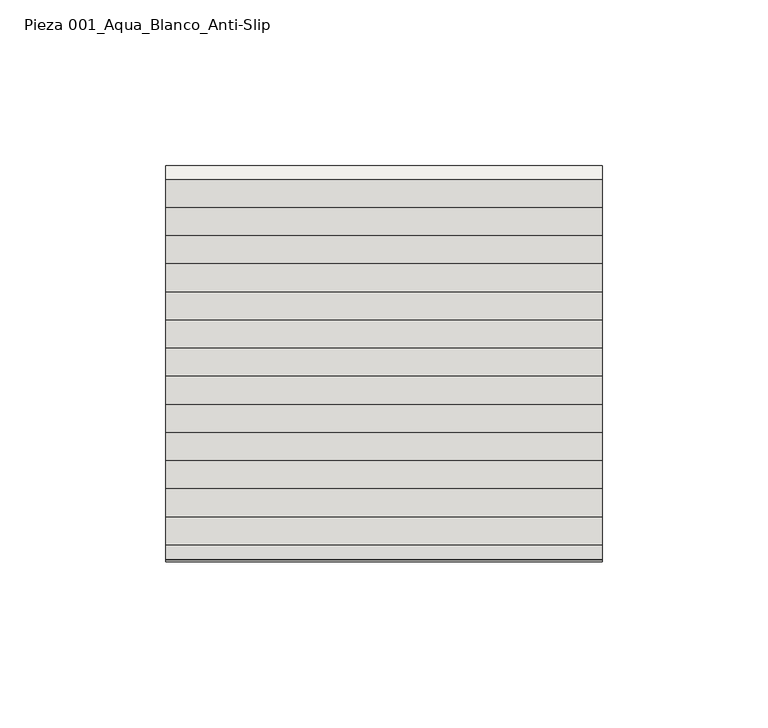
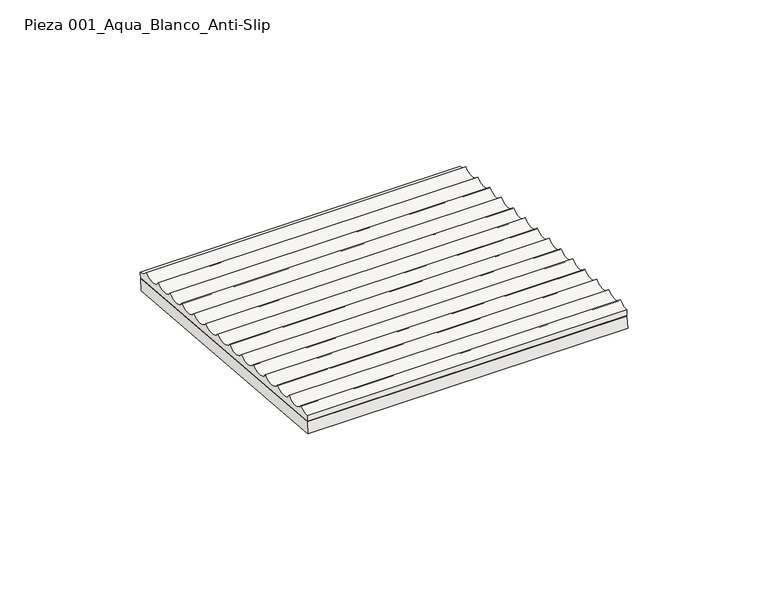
"""IFC4 building model written with IfcOpenShell, lengths in millimetres: slab geometry, ROSA GRES_001 (1 fila) : Pieza 001_Aqua_Blanco_Anti-Slip."""

import ifcopenshell
import ifcopenshell.guid

model = None  # the IFC model being written
_history = None  # IfcOwnerHistory: only IFC2X3 demands one
_inside = {}  # id of a spatial element -> (the spatial element, [elements in it])
_under = {}  # id of a project, library or spatial element -> (it, [spatial elements below it])
_declared = {}  # id of a project -> (the project, [libraries it declares])
_typed = {}  # id of a type object -> (the type object, [elements of that type])
_made_of = {}  # id of a material, layer set ... -> (it, [elements and type objects made of it])


def new_model(schema):
    """Start an empty IFC model of exactly this schema.

    Asked for "IFC4X3", IfcOpenShell would pick the latest addendum, in which some entities
    have other attributes; the version numbers below select the first issue.
    IFC2X3 requires an IfcOwnerHistory on every rooted entity: one is made here for all.
    """
    global model, _history
    if schema == "IFC4X3":
        model = ifcopenshell.file(schema_version=(4, 3, 0, 0))
    else:
        model = ifcopenshell.file(schema=schema)
    _inside.clear()
    _under.clear()
    _declared.clear()
    _typed.clear()
    _made_of.clear()
    _history = None
    if model.schema == "IFC2X3":
        org = make("IfcOrganization", Name="unknown")
        user = make(
            "IfcPersonAndOrganization",
            ThePerson=make("IfcPerson", FamilyName="unknown"),
            TheOrganization=org,
        )
        app = make(
            "IfcApplication",
            ApplicationDeveloper=org,
            Version="unknown",
            ApplicationFullName="unknown",
            ApplicationIdentifier="unknown",
        )
        _history = make(
            "IfcOwnerHistory",
            OwningUser=user,
            OwningApplication=app,
            ChangeAction="ADDED",
            CreationDate=0,
        )
    return model


def make(cls, **values):
    """One entity of the class cls with the attributes given. An attribute that is None is left unset."""
    return model.create_entity(
        cls, **{name: value for name, value in values.items() if value is not None}
    )


def rooted(cls, **values):
    """An entity with a GlobalId (a new one), such as an element, a storey or a relation."""
    return make(cls, GlobalId=ifcopenshell.guid.new(), OwnerHistory=_history, **values)


def si_unit(unit_type, name, prefix=None):
    """IfcSIUnit, for example si_unit("LENGTHUNIT", "METRE", prefix="MILLI")."""
    return make("IfcSIUnit", UnitType=unit_type, Prefix=prefix, Name=name)


def assignment(units):
    """IfcUnitAssignment: the units of a project."""
    return None if units is None else make("IfcUnitAssignment", Units=units)


def point(xyz):
    """IfcCartesianPoint."""
    return None if xyz is None else make("IfcCartesianPoint", Coordinates=xyz)


def direction(xyz):
    """IfcDirection."""
    return None if xyz is None else make("IfcDirection", DirectionRatios=xyz)


def frame(location, z_axis=None, x_axis=None):
    """IfcAxis2Placement3D, a coordinate frame: its origin and axes. An axis left out is left unset."""
    return make(
        "IfcAxis2Placement3D",
        Location=point(location),
        Axis=direction(z_axis),
        RefDirection=direction(x_axis),
    )


def frame_2d(location, x_axis=None):
    """IfcAxis2Placement2D, a coordinate frame in the plane: its origin and x axis."""
    return make(
        "IfcAxis2Placement2D", Location=point(location), RefDirection=direction(x_axis)
    )


def origin():
    """The frame at (0, 0, 0) with its axes left unset."""
    return frame((0.0, 0.0, 0.0))


def place(relative_to, where):
    """IfcLocalPlacement: puts the frame where relative to a parent placement (None: the world)."""
    return make(
        "IfcLocalPlacement", PlacementRelTo=relative_to, RelativePlacement=where
    )


def context(
    kind, dimensions, precision=None, world=None, true_north=None, identifier=None
):
    """IfcGeometricRepresentationContext, for example the 3D "Model" context."""
    return make(
        "IfcGeometricRepresentationContext",
        ContextIdentifier=identifier,
        ContextType=kind,
        CoordinateSpaceDimension=dimensions,
        Precision=precision,
        WorldCoordinateSystem=world,
        TrueNorth=true_north,
    )


def project(units=None, contexts=None):
    """IfcProject with its units and contexts."""
    return rooted(
        "IfcProject",
        Name="project",
        RepresentationContexts=contexts,
        UnitsInContext=assignment(units),
    )


def spatial(cls, under=None, at=None, **own):
    """A site, building, storey or space (cls), placed at a placement, below another one or the project."""
    s = rooted(cls, ObjectPlacement=at, **own)
    if under is not None:
        _under.setdefault(under.id(), (under, []))[1].append(s)
    return s


def polyline(points):
    """IfcPolyline through the points."""
    return make("IfcPolyline", Points=[point(p) for p in points])


def circle_curve(where, radius):
    """IfcCircle in the frame where."""
    return make("IfcCircle", Position=where, Radius=radius)


def trimmed(basis, trim1, trim2, sense, master):
    """IfcTrimmedCurve: the piece of a basis curve between two trims."""
    return make(
        "IfcTrimmedCurve",
        BasisCurve=basis,
        Trim1=trim1,
        Trim2=trim2,
        SenseAgreement=sense,
        MasterRepresentation=master,
    )


def segment(curve, same_sense, transition):
    """IfcCompositeCurveSegment."""
    return make(
        "IfcCompositeCurveSegment",
        Transition=transition,
        SameSense=same_sense,
        ParentCurve=curve,
    )


def composite_curve(segments, self_intersect=None):
    """IfcCompositeCurve: segments joined end to end."""
    return make("IfcCompositeCurve", Segments=segments, SelfIntersect=self_intersect)


def outline(outer, holes=None, kind="AREA"):
    """IfcArbitraryClosedProfileDef: a profile drawn as a closed curve; with holes, ...WithVoids."""
    if holes is None:
        return make("IfcArbitraryClosedProfileDef", ProfileType=kind, OuterCurve=outer)
    return make(
        "IfcArbitraryProfileDefWithVoids",
        ProfileType=kind,
        OuterCurve=outer,
        InnerCurves=holes,
    )


def extrude(swept, where, along, depth):
    """IfcExtrudedAreaSolid: the profile swept, set in the frame where, extruded along a direction by depth."""
    return make(
        "IfcExtrudedAreaSolid",
        SweptArea=swept,
        Position=where,
        ExtrudedDirection=direction(along),
        Depth=depth,
    )


def shape(context_of_items, identifier, shape_type, items):
    """IfcShapeRepresentation: the items that make up one representation, for example the "Body"."""
    return make(
        "IfcShapeRepresentation",
        ContextOfItems=context_of_items,
        RepresentationIdentifier=identifier,
        RepresentationType=shape_type,
        Items=items,
    )


def source(mapping_origin, context_of_items, identifier, shape_type, items):
    """IfcRepresentationMap: a shape defined once, which mapped items show again and again."""
    return make(
        "IfcRepresentationMap",
        MappingOrigin=mapping_origin,
        MappedRepresentation=shape(context_of_items, identifier, shape_type, items),
    )


def transform(
    local_origin,
    x_axis=None,
    y_axis=None,
    z_axis=None,
    scale=None,
    scale2=None,
    scale3=None,
    uniform=True,
):
    """IfcCartesianTransformationOperator3D, or its non-uniform kind. x_axis, y_axis, z_axis: its Axis1, 2, 3."""
    if uniform:
        return make(
            "IfcCartesianTransformationOperator3D",
            Axis1=direction(x_axis),
            Axis2=direction(y_axis),
            LocalOrigin=point(local_origin),
            Scale=scale,
            Axis3=direction(z_axis),
        )
    return make(
        "IfcCartesianTransformationOperator3DnonUniform",
        Axis1=direction(x_axis),
        Axis2=direction(y_axis),
        LocalOrigin=point(local_origin),
        Scale=scale,
        Axis3=direction(z_axis),
        Scale2=scale2,
        Scale3=scale3,
    )


def mapped(mapping_source, mapping_target):
    """IfcMappedItem: shows the shape of a source again, moved by a transform."""
    return make(
        "IfcMappedItem", MappingSource=mapping_source, MappingTarget=mapping_target
    )


def made_of(thing, what):
    """Note that an element or type object is made of a material, layer set ...; save() writes the relation."""
    if what is not None:
        _made_of.setdefault(what.id(), (what, []))[1].append(thing)
    return thing


def element(
    cls,
    number,
    at=None,
    inside=None,
    cuts=None,
    type_object=None,
    material=None,
    context=None,
    identifier="Body",
    shape_type=None,
    held_by="IfcProductDefinitionShape",
    body=None,
    shapes=None,
    **own,
):
    """One element of the class cls, such as IfcWall. Its Tag is "e" and its number.

    at: its placement. inside: the storey or other place that contains it. cuts: it is an
    opening in that element (IfcRelVoidsElement). A single representation is given by context,
    identifier, shape_type and body (its items); several are given by shapes. held_by: the class
    of the entity that holds the representations. save() writes the other relations.
    """
    e = rooted(cls, Tag="e%d" % number, ObjectPlacement=at, **own)
    if body is not None:
        shapes = [shape(context, identifier, shape_type, body)]
    if shapes is not None:
        e.Representation = make(held_by, Representations=shapes)
    if inside is not None:
        _inside.setdefault(inside.id(), (inside, []))[1].append(e)
    if cuts is not None:
        rooted(
            "IfcRelVoidsElement", RelatingBuildingElement=cuts, RelatedOpeningElement=e
        )
    if type_object is not None:
        _typed.setdefault(type_object.id(), (type_object, []))[1].append(e)
    return made_of(e, material)


def aggregate(whole, parts):
    """IfcRelAggregates: a whole, such as a stair, and the parts it consists of."""
    return rooted("IfcRelAggregates", RelatingObject=whole, RelatedObjects=parts)


def save(model, path):
    """Write the relations noted so far, then the file.

    IfcRelAggregates (storeys below a building ...), IfcRelContainedInSpatialStructure (elements
    in a storey), IfcRelDefinesByType, IfcRelAssociatesMaterial and IfcRelDeclares: one each for
    every whole, place, type object, material and project.
    """
    for whole, parts in _under.values():
        aggregate(whole, parts)
    for where, things in _inside.values():
        rooted(
            "IfcRelContainedInSpatialStructure",
            RelatedElements=things,
            RelatingStructure=where,
        )
    for kind, things in _typed.values():
        rooted("IfcRelDefinesByType", RelatedObjects=things, RelatingType=kind)
    for what, things in _made_of.values():
        rooted("IfcRelAssociatesMaterial", RelatedObjects=things, RelatingMaterial=what)
    for by, libraries in _declared.values():
        rooted("IfcRelDeclares", RelatingContext=by, RelatedDefinitions=libraries)
    model.write(path)


def pieza_001_aqua_blanco_anti_slip_ebfc354b(model_context):
    return source(origin(), model_context, "Body", "SweptSolid", [
        extrude(outline(polyline([(0.0, 118.9996), (131.3502643, 118.9996), (131.3502643, 0.0), (0.0, 0.0), (0.0, 118.9996)])), frame((131.3502643, -120.0, 199.6968204), z_axis=(0.0, 0.08112705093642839, 0.9967037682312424), x_axis=(-1.0, 0.0, 0.0)), (0.0, 0.0, 1.0), 5.0),
        extrude(outline(composite_curve([segment(polyline([(-238.2017145, 214.3344258), (-237.9885153, 216.9537305)]), True, "CONTINUOUS"), segment(trimmed(circle_curve(frame_2d((-237.534912, 222.5265709)), 5.5912705), [point((-237.9885153, 216.9537305))], [point((-233.5936836, 218.5605875))], True, "CARTESIAN"), True, "CONTINUOUS"), segment(trimmed(circle_curve(frame_2d((-229.0629584, 221.8369933)), 5.5912705), [point((-233.5936836, 218.5605875))], [point((-225.12173, 217.8710099))], True, "CARTESIAN"), True, "CONTINUOUS"), segment(trimmed(circle_curve(frame_2d((-220.5910049, 221.1474157)), 5.5912705), [point((-225.12173, 217.8710099))], [point((-216.6497765, 217.1814322))], True, "CARTESIAN"), True, "CONTINUOUS"), segment(trimmed(circle_curve(frame_2d((-212.1190513, 220.457838)), 5.5912705), [point((-216.6497765, 217.1814322))], [point((-208.1778229, 216.4918546))], True, "CARTESIAN"), True, "CONTINUOUS"), segment(trimmed(circle_curve(frame_2d((-203.6470978, 219.7682604)), 5.5912705), [point((-208.1778229, 216.4918546))], [point((-199.7058694, 215.802277))], True, "CARTESIAN"), True, "CONTINUOUS"), segment(trimmed(circle_curve(frame_2d((-195.1751442, 219.0786828)), 5.5912705), [point((-199.7058694, 215.802277))], [point((-191.2339158, 215.1126994))], True, "CARTESIAN"), True, "CONTINUOUS"), segment(trimmed(circle_curve(frame_2d((-186.7031907, 218.3891052)), 5.5912705), [point((-191.2339158, 215.1126994))], [point((-182.7619623, 214.4231218))], True, "CARTESIAN"), True, "CONTINUOUS"), segment(trimmed(circle_curve(frame_2d((-178.2312371, 217.6995276)), 5.5912705), [point((-182.7619623, 214.4231218))], [point((-174.2900087, 213.7335442))], True, "CARTESIAN"), True, "CONTINUOUS"), segment(trimmed(circle_curve(frame_2d((-169.7592836, 217.00995)), 5.5912705), [point((-174.2900087, 213.7335442))], [point((-165.8180552, 213.0439666))], True, "CARTESIAN"), True, "CONTINUOUS"), segment(trimmed(circle_curve(frame_2d((-161.28733, 216.3203723)), 5.5912705), [point((-165.8180552, 213.0439666))], [point((-157.3461016, 212.3543889))], True, "CARTESIAN"), True, "CONTINUOUS"), segment(trimmed(circle_curve(frame_2d((-152.8153765, 215.6307947)), 5.5912705), [point((-157.3461016, 212.3543889))], [point((-148.8741481, 211.6648113))], True, "CARTESIAN"), True, "CONTINUOUS"), segment(trimmed(circle_curve(frame_2d((-144.3434229, 214.9412171)), 5.5912705), [point((-148.8741481, 211.6648113))], [point((-140.4021945, 210.9752337))], True, "CARTESIAN"), True, "CONTINUOUS"), segment(trimmed(circle_curve(frame_2d((-135.8714693, 214.2516395)), 5.5912705), [point((-140.4021945, 210.9752337))], [point((-131.930241, 210.2856561))], True, "CARTESIAN"), True, "CONTINUOUS"), segment(trimmed(circle_curve(frame_2d((-127.3995158, 213.5620619)), 5.5912705), [point((-131.930241, 210.2856561))], [point((-123.4582874, 209.5960785))], True, "CARTESIAN"), True, "CONTINUOUS"), segment(trimmed(circle_curve(frame_2d((-118.9275622, 212.8724843)), 5.5912705), [point((-123.4582874, 209.5960785))], [point((-119.3811655, 207.2996439))], True, "CARTESIAN"), True, "CONTINUOUS"), segment(polyline([(-119.3811655, 207.2996439), (-119.5943647, 204.6803392), (-238.2017145, 214.3344258)]), True, "CONTINUOUS")], self_intersect=False)), frame((0.0, 0.0, 0.0), z_axis=(1.0, 0.0, 0.0), x_axis=(0.0, 1.0, 0.0)), (0.0, 0.0, 1.0), 131.3502643),
    ])


if __name__ == "__main__":
    model = new_model("IFC4")
    model_context = context("Model", 3, world=origin())
    ifc_project = project(units=[si_unit("LENGTHUNIT", "METRE", prefix="MILLI")], contexts=[model_context])
    site = spatial("IfcSite", under=ifc_project)
    building = spatial("IfcBuilding", under=site)
    placement = place(None, origin())
    pieza_001_aqua_blanco_anti_slip_shape = pieza_001_aqua_blanco_anti_slip_ebfc354b(model_context)
    element("IfcSlab", 1, ObjectType="ROSA GRES_001 (1 fila) : Pieza 001_Aqua_Blanco_Anti-Slip", at=placement, inside=building, context=model_context, shape_type="MappedRepresentation", body=[
        mapped(pieza_001_aqua_blanco_anti_slip_shape, transform((0.0, 0.0, 0.0), x_axis=(1.0, 0.0, 0.0), y_axis=(0.0, 1.0, 0.0), z_axis=(0.0, 0.0, 1.0))),
    ])
    save(model, "model.ifc")
